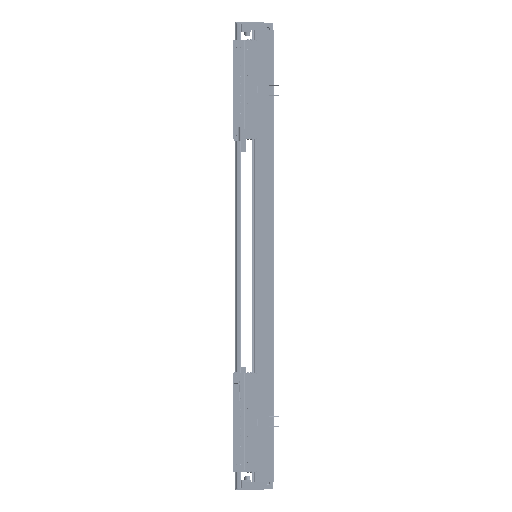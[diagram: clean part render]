
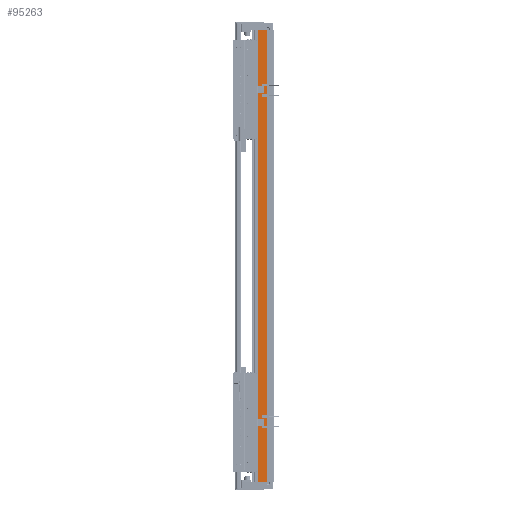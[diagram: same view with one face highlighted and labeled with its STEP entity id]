
A CAD part, left-side view. The second image highlights one B-rep face of the part: STEP entity #95263.
In plain terms, the highlighted planar face has unit normal (-1, 0, 0).
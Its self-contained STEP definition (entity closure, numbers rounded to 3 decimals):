
#8422 = CARTESIAN_POINT ( 'NONE',  ( -97.5, 14.45, -570. ) ) ;
#9398 = LINE ( 'NONE', #44742, #117415 ) ;
#18902 = ORIENTED_EDGE ( 'NONE', *, *, #63579, .F. ) ;
#19508 = DIRECTION ( 'NONE',  ( 0., 1., 0. ) ) ;
#20872 = EDGE_LOOP ( 'NONE', ( #101297, #146526, #18902, #59103 ) ) ;
#21229 = LINE ( 'NONE', #105304, #69547 ) ;
#34679 = LINE ( 'NONE', #48758, #103698 ) ;
#44742 = CARTESIAN_POINT ( 'NONE',  ( -97.5, 36.95, 570. ) ) ;
#48758 = CARTESIAN_POINT ( 'NONE',  ( -97.5, 36.95, 570. ) ) ;
#51967 = EDGE_CURVE ( 'NONE', #118348, #61252, #34679, .T. ) ;
#58746 = EDGE_CURVE ( 'NONE', #110240, #79530, #74852, .T. ) ;
#59103 = ORIENTED_EDGE ( 'NONE', *, *, #51967, .T. ) ;
#61252 = VERTEX_POINT ( 'NONE', #69913 ) ;
#63579 = EDGE_CURVE ( 'NONE', #118348, #110240, #9398, .T. ) ;
#68402 = DIRECTION ( 'NONE',  ( 0., -1., 0. ) ) ;
#69015 = PLANE ( 'NONE',  #144224 ) ;
#69338 = VECTOR ( 'NONE', #132282, 1000. ) ;
#69547 = VECTOR ( 'NONE', #68402, 1000. ) ;
#69913 = CARTESIAN_POINT ( 'NONE',  ( -97.5, 36.95, -570. ) ) ;
#74852 = LINE ( 'NONE', #97655, #69338 ) ;
#79530 = VERTEX_POINT ( 'NONE', #8422 ) ;
#93362 = FACE_OUTER_BOUND ( 'NONE', #20872, .T. ) ;
#95263 = ADVANCED_FACE ( 'NONE', ( #93362 ), #69015, .F. ) ;
#96681 = DIRECTION ( 'NONE',  ( 0., 0., -1. ) ) ;
#97655 = CARTESIAN_POINT ( 'NONE',  ( -97.5, 14.45, 570. ) ) ;
#101297 = ORIENTED_EDGE ( 'NONE', *, *, #113664, .T. ) ;
#103698 = VECTOR ( 'NONE', #96681, 1000. ) ;
#105304 = CARTESIAN_POINT ( 'NONE',  ( -97.5, 36.95, -570. ) ) ;
#110240 = VERTEX_POINT ( 'NONE', #149082 ) ;
#113664 = EDGE_CURVE ( 'NONE', #61252, #79530, #21229, .T. ) ;
#116160 = CARTESIAN_POINT ( 'NONE',  ( -97.5, 36.95, 570. ) ) ;
#117415 = VECTOR ( 'NONE', #117786, 1000. ) ;
#117786 = DIRECTION ( 'NONE',  ( 0., -1., 0. ) ) ;
#118348 = VERTEX_POINT ( 'NONE', #125969 ) ;
#125969 = CARTESIAN_POINT ( 'NONE',  ( -97.5, 36.95, 570. ) ) ;
#132282 = DIRECTION ( 'NONE',  ( 0., 0., -1. ) ) ;
#141313 = DIRECTION ( 'NONE',  ( 1., 0., 0. ) ) ;
#144224 = AXIS2_PLACEMENT_3D ( 'NONE', #116160, #141313, #19508 ) ;
#146526 = ORIENTED_EDGE ( 'NONE', *, *, #58746, .F. ) ;
#149082 = CARTESIAN_POINT ( 'NONE',  ( -97.5, 14.45, 570. ) ) ;
